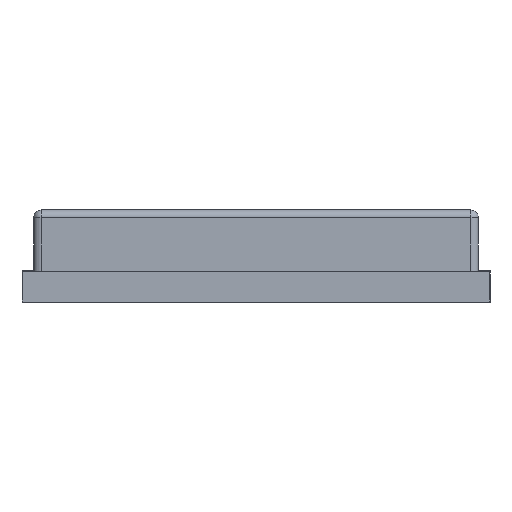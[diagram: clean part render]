
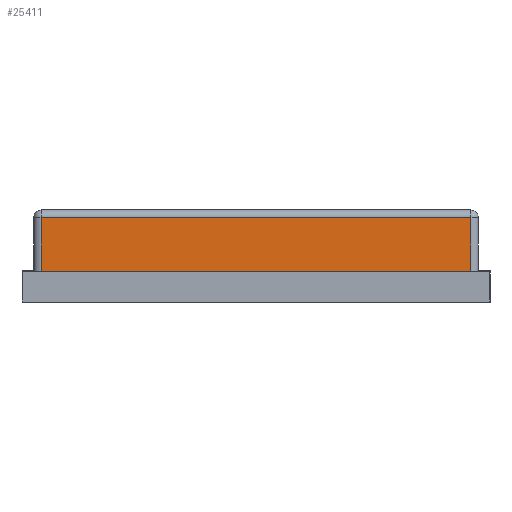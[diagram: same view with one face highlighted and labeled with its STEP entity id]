
A CAD part, front view. The second image highlights one B-rep face of the part: STEP entity #25411.
In plain terms, the highlighted planar face has unit normal (0, -1, 0).
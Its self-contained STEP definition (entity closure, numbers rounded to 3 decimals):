
#365 = CARTESIAN_POINT ( 'NONE',  ( 5.8, -7.7, 0.8 ) ) ;
#661 = DIRECTION ( 'NONE',  ( 1., 0., 0. ) ) ;
#2553 = LINE ( 'NONE', #365, #9582 ) ;
#3444 = EDGE_CURVE ( 'NONE', #11826, #21113, #15834, .T. ) ;
#3963 = EDGE_CURVE ( 'NONE', #21113, #19780, #18263, .T. ) ;
#5020 = LINE ( 'NONE', #21378, #5816 ) ;
#5136 = ORIENTED_EDGE ( 'NONE', *, *, #26928, .T. ) ;
#5384 = VERTEX_POINT ( 'NONE', #8104 ) ;
#5816 = VECTOR ( 'NONE', #13974, 1000. ) ;
#6712 = CARTESIAN_POINT ( 'NONE',  ( 5.6, -7.7, 2.4 ) ) ;
#7031 = CARTESIAN_POINT ( 'NONE',  ( -5.6, -7.7, 2.2 ) ) ;
#7196 = AXIS2_PLACEMENT_3D ( 'NONE', #23761, #19498, #8189 ) ;
#8104 = CARTESIAN_POINT ( 'NONE',  ( -5.6, -7.7, 0.8 ) ) ;
#8189 = DIRECTION ( 'NONE',  ( 0., 0., 1. ) ) ;
#9582 = VECTOR ( 'NONE', #661, 1000. ) ;
#10536 = PLANE ( 'NONE',  #7196 ) ;
#11826 = VERTEX_POINT ( 'NONE', #13160 ) ;
#12492 = ORIENTED_EDGE ( 'NONE', *, *, #3444, .T. ) ;
#13160 = CARTESIAN_POINT ( 'NONE',  ( 5.6, -7.7, 0.8 ) ) ;
#13770 = EDGE_LOOP ( 'NONE', ( #5136, #12492, #16819, #15242 ) ) ;
#13974 = DIRECTION ( 'NONE',  ( 0., 0., -1. ) ) ;
#14462 = CARTESIAN_POINT ( 'NONE',  ( -5.8, -7.7, 2.2 ) ) ;
#15242 = ORIENTED_EDGE ( 'NONE', *, *, #20681, .T. ) ;
#15520 = DIRECTION ( 'NONE',  ( 0., 0., 1. ) ) ;
#15834 = LINE ( 'NONE', #6712, #20511 ) ;
#16819 = ORIENTED_EDGE ( 'NONE', *, *, #3963, .T. ) ;
#18263 = LINE ( 'NONE', #14462, #20478 ) ;
#19498 = DIRECTION ( 'NONE',  ( 0., 1., 0. ) ) ;
#19780 = VERTEX_POINT ( 'NONE', #7031 ) ;
#20478 = VECTOR ( 'NONE', #25604, 1000. ) ;
#20511 = VECTOR ( 'NONE', #15520, 1000. ) ;
#20681 = EDGE_CURVE ( 'NONE', #19780, #5384, #5020, .T. ) ;
#21113 = VERTEX_POINT ( 'NONE', #26892 ) ;
#21212 = FACE_OUTER_BOUND ( 'NONE', #13770, .T. ) ;
#21378 = CARTESIAN_POINT ( 'NONE',  ( -5.6, -7.7, 2.4 ) ) ;
#23761 = CARTESIAN_POINT ( 'NONE',  ( 5.8, -7.7, 2.4 ) ) ;
#25411 = ADVANCED_FACE ( 'NONE', ( #21212 ), #10536, .F. ) ;
#25604 = DIRECTION ( 'NONE',  ( -1., 0., 0. ) ) ;
#26892 = CARTESIAN_POINT ( 'NONE',  ( 5.6, -7.7, 2.2 ) ) ;
#26928 = EDGE_CURVE ( 'NONE', #5384, #11826, #2553, .T. ) ;
